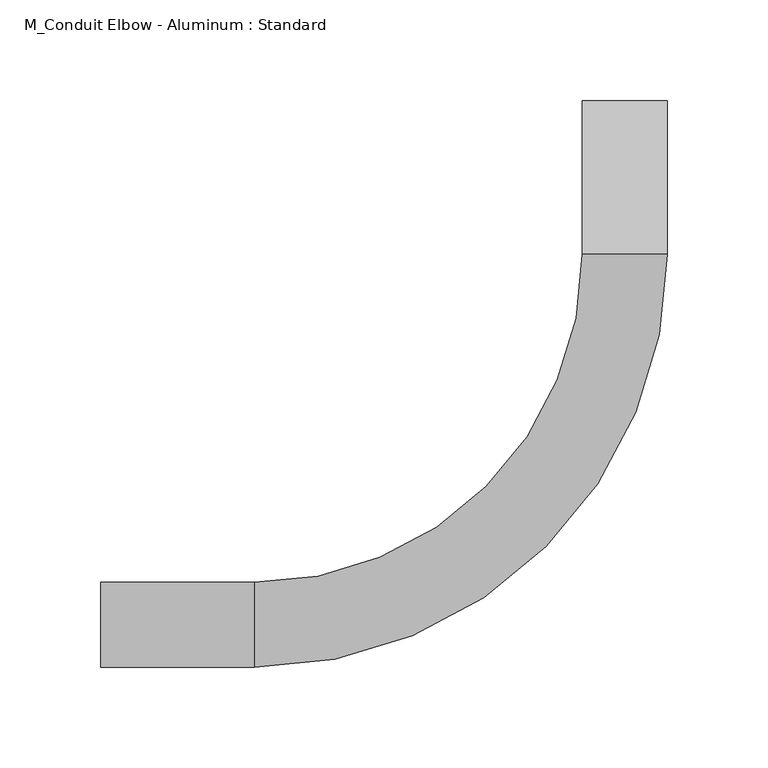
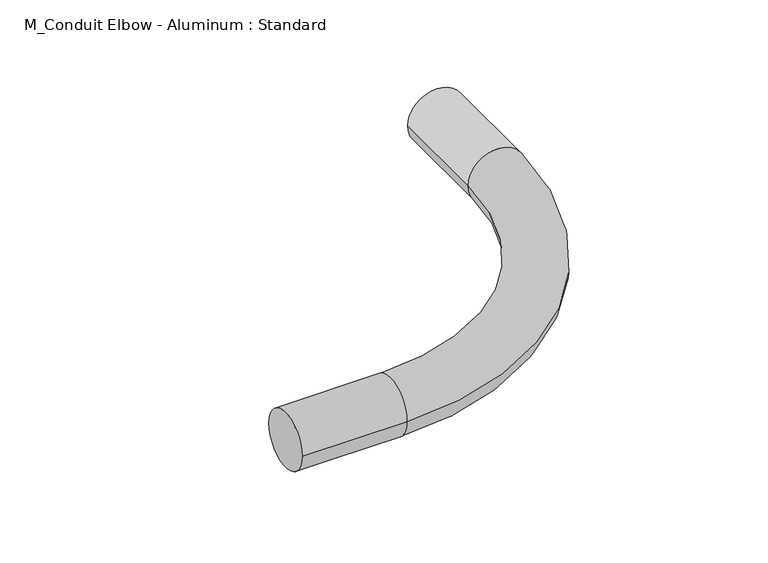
"""IFC4 building model written with IfcOpenShell, lengths in millimetres: cable carrier fitting geometry, M_Conduit Elbow - Aluminum : Standard."""

from ifc_helpers import new_model, si_unit, point, frame, origin, place, context, project, spatial, circle_curve, ellipse_curve, trimmed, source, transform, mapped, element, save
from ifc_brep_helpers import plane_surface, cylinder_surface, revolved_surface, advanced_brep


def m_conduit_elbow_aluminum_standard_76e275a1(model_context):
    return source(origin(), model_context, "Body", "AdvancedBrep", [
        advanced_brep(
        [(-260.35, -21.082, 0.0), (-260.35, 21.082, 0.0), (-184.15, -21.082, 0.0), (-184.15, 21.082, 0.0), (-21.082, 184.15, 0.0), (21.082, 184.15, 0.0), (21.082, 260.35, 0.0), (-21.082, 260.35, 0.0)],
        [
            (0, 1, circle_curve(frame((-260.35, 0.0, 0.0), z_axis=(-1.0, 0.0, 0.0), x_axis=(0.0, 1.0, 0.0)), 21.082)),
            (1, 0, circle_curve(frame((-260.35, 0.0, 0.0), z_axis=(-1.0, 0.0, 0.0), x_axis=(0.0, 1.0, 0.0)), 21.082)),
            (0, 2),
            (2, 3, circle_curve(frame((-184.15, 0.0, 0.0), z_axis=(-1.0, 0.0, 0.0), x_axis=(0.0, 1.0, 0.0)), 21.082)),
            (3, 1),
            (3, 2, circle_curve(frame((-184.15, 0.0, 0.0), z_axis=(-1.0, 0.0, 0.0), x_axis=(0.0, 1.0, 0.0)), 21.082)),
            (4, 3, circle_curve(frame((-184.15, 184.15, 0.0), z_axis=(0.0, 0.0, -1.0), x_axis=(0.0, -1.0, 0.0)), 163.068)),
            (2, 5, circle_curve(frame((-184.15, 184.15, 0.0), z_axis=(0.0, 0.0, 1.0), x_axis=(0.0, -1.0, 0.0)), 205.232)),
            (5, 4, circle_curve(frame((0.0, 184.15, 0.0), z_axis=(0.0, -1.0, 0.0), x_axis=(-1.0, 0.0, 0.0)), 21.082)),
            (4, 5, circle_curve(frame((0.0, 184.15, 0.0), z_axis=(0.0, -1.0, 0.0), x_axis=(-1.0, 0.0, 0.0)), 21.082)),
            (6, 7, circle_curve(frame((0.0, 260.35, 0.0), z_axis=(0.0, 1.0, 0.0), x_axis=(-1.0, 0.0, 0.0)), 21.082)),
            (7, 6, circle_curve(frame((0.0, 260.35, 0.0), z_axis=(0.0, 1.0, 0.0), x_axis=(-1.0, 0.0, 0.0)), 21.082)),
            (5, 6),
            (7, 4),
        ],
        [
            plane_surface(frame((-260.35, 0.0, 0.0), z_axis=(-1.0, 0.0, 0.0), x_axis=(0.0, 0.0, 1.0))),
            cylinder_surface(frame((-260.35, 0.0, 0.0), z_axis=(-1.0, 0.0, 0.0), x_axis=(0.0, 1.0, 0.0)), 21.082),
            revolved_surface(trimmed(ellipse_curve(frame((-184.15, 0.0, 0.0), z_axis=(-1.0, 0.0, 0.0), x_axis=(0.0, 1.0, 0.0)), 21.082, 21.082), [point((-184.15, -21.082, 0.0))], [point((-184.15, 21.082, 0.0))], True, "CARTESIAN"), (-184.15, 184.15, 0.0), (0.0, 0.0, 1.0)),
            revolved_surface(trimmed(ellipse_curve(frame((-184.15, 0.0, 0.0), z_axis=(-1.0, 0.0, 0.0), x_axis=(0.0, 1.0, 0.0)), 21.082, 21.082), [point((-184.15, 21.082, 0.0))], [point((-184.15, -21.082, 0.0))], True, "CARTESIAN"), (-184.15, 184.15, 0.0), (0.0, 0.0, 1.0)),
            plane_surface(frame((0.0, 260.35, 0.0), z_axis=(0.0, 1.0, 0.0), x_axis=(0.0, 0.0, 1.0))),
            cylinder_surface(frame((0.0, 184.15, 0.0), z_axis=(0.0, -1.0, 0.0), x_axis=(-1.0, 0.0, 0.0)), 21.082),
        ],
        [
            (0, [[1, 2]]),
            (1, [[-1, 3, 4, 5]]),
            (1, [[-2, -5, 6, -3]]),
            (2, [[7, -4, 8, 9]]),
            (3, [[-8, -6, -7, 10]]),
            (4, [[11, 12]]),
            (5, [[-9, 13, -12, 14]]),
            (5, [[-10, -14, -11, -13]]),
        ],
    ),
    ])


if __name__ == "__main__":
    model = new_model("IFC4")
    model_context = context("Model", 3, world=origin())
    ifc_project = project(units=[si_unit("LENGTHUNIT", "METRE", prefix="MILLI")], contexts=[model_context])
    site = spatial("IfcSite", under=ifc_project)
    building = spatial("IfcBuilding", under=site)
    placement = place(None, origin())
    m_conduit_elbow_aluminum_standard_shape = m_conduit_elbow_aluminum_standard_76e275a1(model_context)
    element("IfcCableCarrierFitting", 1, ObjectType="M_Conduit Elbow - Aluminum : Standard", at=placement, inside=building, context=model_context, shape_type="MappedRepresentation", body=[
        mapped(m_conduit_elbow_aluminum_standard_shape, transform((0.0, 0.0, 0.0), x_axis=(1.0, 0.0, 0.0), y_axis=(0.0, 1.0, 0.0), z_axis=(0.0, 0.0, 1.0))),
    ])
    save(model, "model.ifc")
